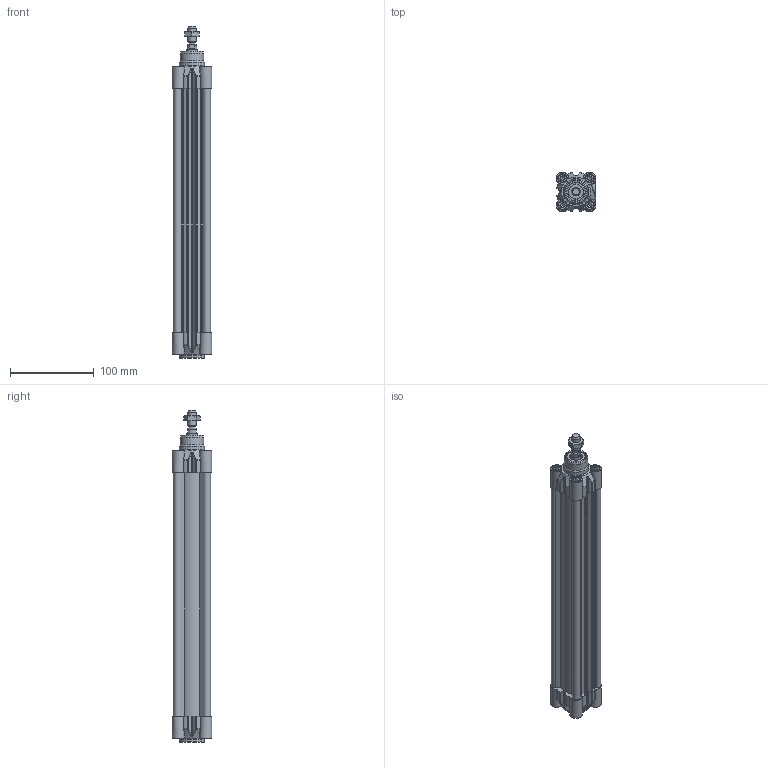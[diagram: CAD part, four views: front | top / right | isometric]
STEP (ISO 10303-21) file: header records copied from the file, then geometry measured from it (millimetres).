
FILE_DESCRIPTION(/* description */ ('Unknown'),/* implementation_level */ '2;1');
FILE_NAME(/* name */ 'HIF 32_250',/* time_stamp */ '2024-08-08T11:55:52+02:00',/* author */ ('Unknown'),/* organization */ ('Unknown'),/* preprocessor_version */ 'ST-DEVELOPER v16.7',/* originating_system */ 'Solid Edge',/* authorisation */ 'Unknown');
FILE_SCHEMA (('AUTOMOTIVE_DESIGN {1 0 10303 214 3 1 1}'));
Length unit declared in the file: millimetre
Products named in the file (6): HIF 32_250; Prfilrohr 32_250; Mutter; Kolbenstange 32_250; Kit_1; Kit_2
Assembly tree (5 placements, depth 2):
  HIF 32_250
    Prfilrohr 32_250
    Mutter
    Kolbenstange 32_250
    Kit_1
    Kit_2
Bounding box: 47 x 47 x 396 mm (x, y, z)
Volume: 318929.4 mm3; surface area: 195317.2 mm2
Topology: 5 solids, 12 shells, 957 faces, 2431 edges, 1577 vertices
Faces by surface type: cylinder 372, plane 329, cone 96, torus 75, bspline 65, sphere 20
Full cylindrical faces by diameter (mm): 2.1 x2, 4.917 x16, 6 x8, 6.2 x8, 7 x2, 7.9 x1, 7.991 x2, 8 x2, 8.56 x2, 8.566 x2, 8.647 x1, 10 x9, 10.3 x8, 11.6 x1, 11.804 x1, 12 x3, 12.8 x1, 12.847 x1, 16 x2, 22 x2, 28 x1, 30 x2, 32 x2
Entity records: 36933 total; most frequent: CARTESIAN_POINT 9326, ORIENTED_EDGE 4712, DIRECTION 4309, EDGE_CURVE 2356, AXIS2_PLACEMENT_3D 1706, VERTEX_POINT 1559, FACE_BOUND 1117, EDGE_LOOP 1109
